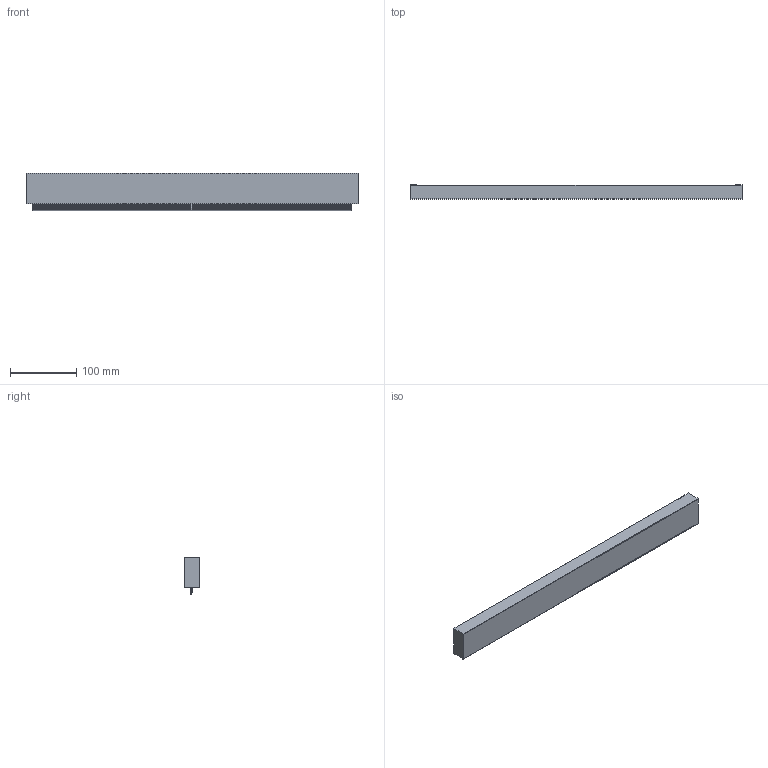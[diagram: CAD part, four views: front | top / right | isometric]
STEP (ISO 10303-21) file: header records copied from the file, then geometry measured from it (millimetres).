
FILE_DESCRIPTION( ( '' ), '1' );
FILE_NAME( 'D:/temp/hettich_stp/hettich/prodecor_handles/new_modern/115026.stp', '2013-02-26T12:41:34', ( '' ), ( '' ), ' ', ' ', ' ' );
FILE_SCHEMA( ( 'automotive_design' ) );
Length unit declared in the file: millimetre
Products named in the file (1): 1
Bounding box: 500 x 21.1 x 56.5 mm (x, y, z)
Volume: 193690.1 mm3; surface area: 107825.1 mm2
Topology: 1 solids, 1 shells, 104 faces, 299 edges, 198 vertices
Faces by surface type: cylinder 54, plane 50
Entity records: 6780 total; most frequent: DIRECTION 617, STYLED_ITEM 602, PRESENTATION_STYLE_ASSIGNMENT 602, CARTESIAN_POINT 602, COLOUR_RGB 602, ORIENTED_EDGE 598, EDGE_CURVE 299, CURVE_STYLE 299
